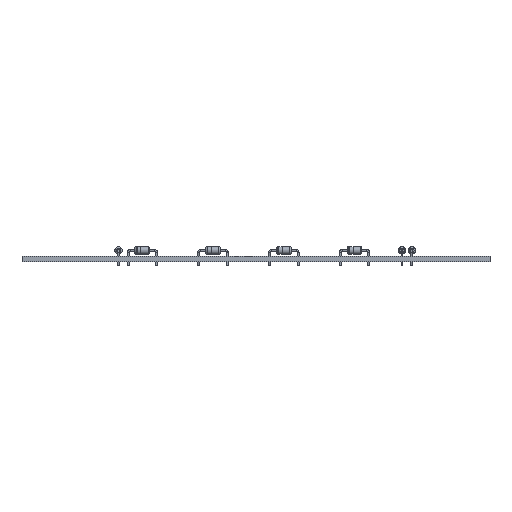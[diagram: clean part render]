
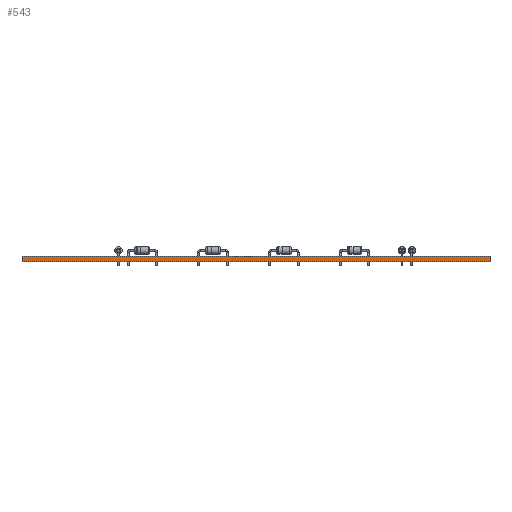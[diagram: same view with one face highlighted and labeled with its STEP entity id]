
A CAD part, front view. The second image highlights one B-rep face of the part: STEP entity #543.
In plain terms, the highlighted planar face has unit normal (0, -1, 0).
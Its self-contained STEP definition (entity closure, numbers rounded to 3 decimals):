
#543 = ADVANCED_FACE('',(#544),#578,.T.);
#544 = FACE_BOUND('',#545,.T.);
#545 = EDGE_LOOP('',(#546,#556,#564,#572));
#546 = ORIENTED_EDGE('',*,*,#547,.T.);
#547 = EDGE_CURVE('',#548,#550,#552,.T.);
#548 = VERTEX_POINT('',#549);
#549 = CARTESIAN_POINT('',(187.5,-132.,0.));
#550 = VERTEX_POINT('',#551);
#551 = CARTESIAN_POINT('',(187.5,-132.,1.51));
#552 = LINE('',#553,#554);
#553 = CARTESIAN_POINT('',(187.5,-132.,0.));
#554 = VECTOR('',#555,1.);
#555 = DIRECTION('',(0.,0.,1.));
#556 = ORIENTED_EDGE('',*,*,#557,.T.);
#557 = EDGE_CURVE('',#550,#558,#560,.T.);
#558 = VERTEX_POINT('',#559);
#559 = CARTESIAN_POINT('',(61.5,-132.,1.51));
#560 = LINE('',#561,#562);
#561 = CARTESIAN_POINT('',(187.5,-132.,1.51));
#562 = VECTOR('',#563,1.);
#563 = DIRECTION('',(-1.,0.,0.));
#564 = ORIENTED_EDGE('',*,*,#565,.F.);
#565 = EDGE_CURVE('',#566,#558,#568,.T.);
#566 = VERTEX_POINT('',#567);
#567 = CARTESIAN_POINT('',(61.5,-132.,0.));
#568 = LINE('',#569,#570);
#569 = CARTESIAN_POINT('',(61.5,-132.,0.));
#570 = VECTOR('',#571,1.);
#571 = DIRECTION('',(0.,0.,1.));
#572 = ORIENTED_EDGE('',*,*,#573,.F.);
#573 = EDGE_CURVE('',#548,#566,#574,.T.);
#574 = LINE('',#575,#576);
#575 = CARTESIAN_POINT('',(187.5,-132.,0.));
#576 = VECTOR('',#577,1.);
#577 = DIRECTION('',(-1.,0.,0.));
#578 = PLANE('',#579);
#579 = AXIS2_PLACEMENT_3D('',#580,#581,#582);
#580 = CARTESIAN_POINT('',(187.5,-132.,0.));
#581 = DIRECTION('',(0.,-1.,0.));
#582 = DIRECTION('',(-1.,0.,0.));
